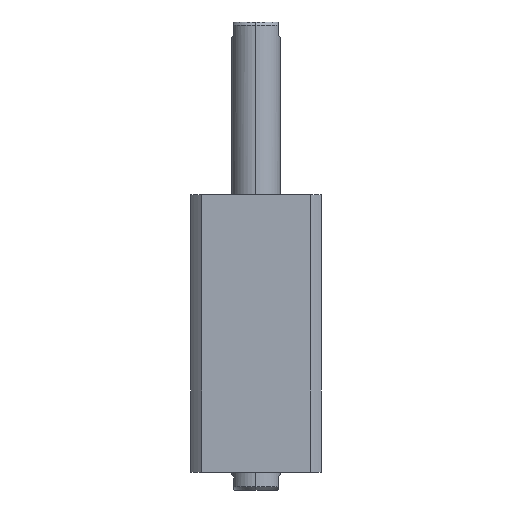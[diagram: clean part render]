
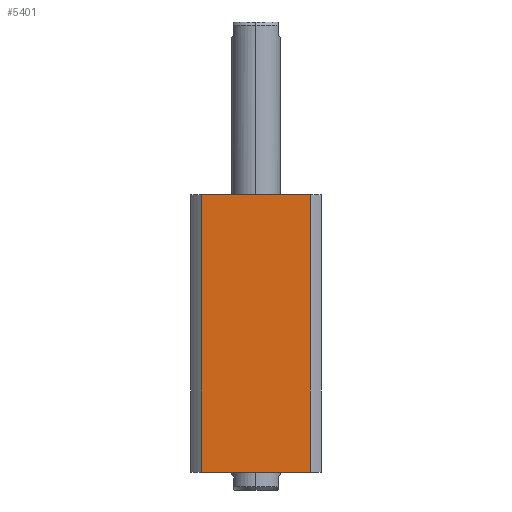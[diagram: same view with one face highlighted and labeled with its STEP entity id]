
A CAD part, left-side view. The second image highlights one B-rep face of the part: STEP entity #5401.
In plain terms, the highlighted planar face has unit normal (-1, 0, 0).
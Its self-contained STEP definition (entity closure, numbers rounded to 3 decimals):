
#368 = EDGE_CURVE ( 'NONE', #9672, #1882, #3531, .T. ) ;
#444 = LINE ( 'NONE', #9714, #3548 ) ;
#493 = CARTESIAN_POINT ( 'NONE',  ( -40., 33.226, -85. ) ) ;
#1447 = CARTESIAN_POINT ( 'NONE',  ( -40., 33.226, 85. ) ) ;
#1882 = VERTEX_POINT ( 'NONE', #8902 ) ;
#1981 = VERTEX_POINT ( 'NONE', #2816 ) ;
#2703 = VECTOR ( 'NONE', #4890, 1000. ) ;
#2816 = CARTESIAN_POINT ( 'NONE',  ( -40., -33.226, -85. ) ) ;
#2954 = LINE ( 'NONE', #8315, #6259 ) ;
#3036 = ORIENTED_EDGE ( 'NONE', *, *, #5923, .T. ) ;
#3531 = LINE ( 'NONE', #5366, #2703 ) ;
#3548 = VECTOR ( 'NONE', #6092, 1000. ) ;
#3812 = DIRECTION ( 'NONE',  ( 0., -1., 0. ) ) ;
#3954 = AXIS2_PLACEMENT_3D ( 'NONE', #7086, #7145, #5554 ) ;
#4183 = CARTESIAN_POINT ( 'NONE',  ( -40., -33.226, 85. ) ) ;
#4890 = DIRECTION ( 'NONE',  ( 0., -1., 0. ) ) ;
#5366 = CARTESIAN_POINT ( 'NONE',  ( -40., 33.226, 85. ) ) ;
#5401 = ADVANCED_FACE ( 'NONE', ( #6708 ), #5584, .F. ) ;
#5552 = DIRECTION ( 'NONE',  ( 0., 0., -1. ) ) ;
#5554 = DIRECTION ( 'NONE',  ( 0., 1., 0. ) ) ;
#5584 = PLANE ( 'NONE',  #3954 ) ;
#5624 = EDGE_CURVE ( 'NONE', #7489, #1981, #2954, .T. ) ;
#5923 = EDGE_CURVE ( 'NONE', #9672, #7489, #444, .T. ) ;
#6092 = DIRECTION ( 'NONE',  ( 0., 0., -1. ) ) ;
#6259 = VECTOR ( 'NONE', #3812, 1000. ) ;
#6569 = ORIENTED_EDGE ( 'NONE', *, *, #7006, .F. ) ;
#6708 = FACE_OUTER_BOUND ( 'NONE', #8642, .T. ) ;
#7006 = EDGE_CURVE ( 'NONE', #1882, #1981, #8895, .T. ) ;
#7086 = CARTESIAN_POINT ( 'NONE',  ( -40., 33.226, 85. ) ) ;
#7145 = DIRECTION ( 'NONE',  ( 1., 0., 0. ) ) ;
#7489 = VERTEX_POINT ( 'NONE', #493 ) ;
#7982 = ORIENTED_EDGE ( 'NONE', *, *, #5624, .T. ) ;
#8315 = CARTESIAN_POINT ( 'NONE',  ( -40., 33.226, -85. ) ) ;
#8421 = VECTOR ( 'NONE', #5552, 1000. ) ;
#8642 = EDGE_LOOP ( 'NONE', ( #7982, #6569, #9292, #3036 ) ) ;
#8895 = LINE ( 'NONE', #4183, #8421 ) ;
#8902 = CARTESIAN_POINT ( 'NONE',  ( -40., -33.226, 85. ) ) ;
#9292 = ORIENTED_EDGE ( 'NONE', *, *, #368, .F. ) ;
#9672 = VERTEX_POINT ( 'NONE', #1447 ) ;
#9714 = CARTESIAN_POINT ( 'NONE',  ( -40., 33.226, 85. ) ) ;
